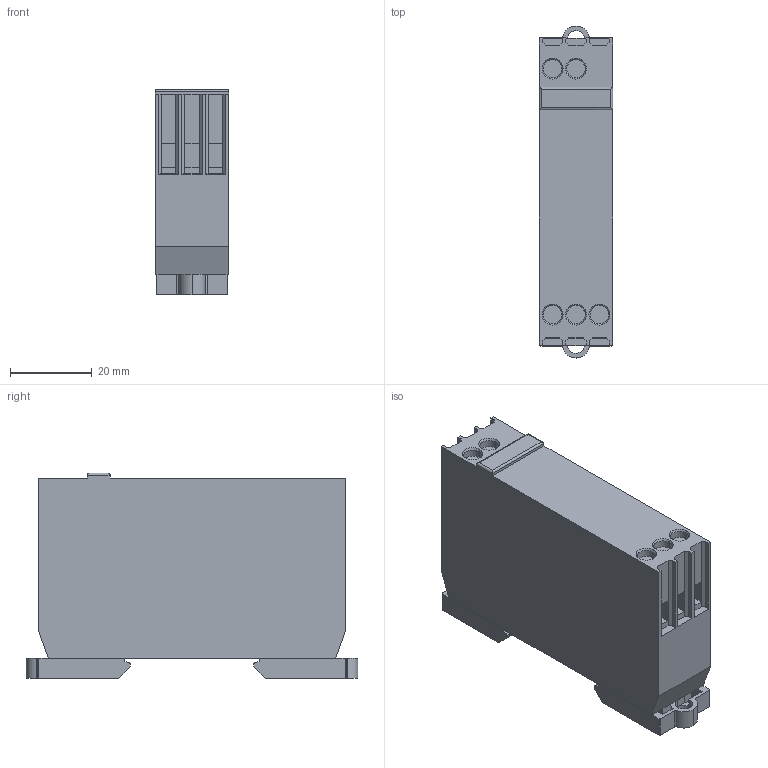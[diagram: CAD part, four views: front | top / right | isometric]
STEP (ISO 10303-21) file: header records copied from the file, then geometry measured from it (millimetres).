
FILE_DESCRIPTION (( 'STEP AP214' ), '1' );
FILE_NAME ('B103.STEP', '2024-04-03T14:04:50', ( '' ), ( '' ), 'SwSTEP 2.0', 'SolidWorks 2022', '' );
FILE_SCHEMA (( 'AUTOMOTIVE_DESIGN' ));
Length unit declared in the file: millimetre
Products named in the file (1): B103
Bounding box: 17.9 x 81 x 50.18 mm (x, y, z)
Volume: 58814.3 mm3; surface area: 14811.4 mm2
Topology: 1 solids, 1 shells, 285 faces, 812 edges, 516 vertices
Faces by surface type: plane 221, cylinder 54, cone 10
Entity records: 12045 total; most frequent: CARTESIAN_POINT 1626, ORIENTED_EDGE 1624, DIRECTION 1500, EDGE_CURVE 812, VECTOR 688, LINE 688, VERTEX_POINT 516, AXIS2_PLACEMENT_3D 406
